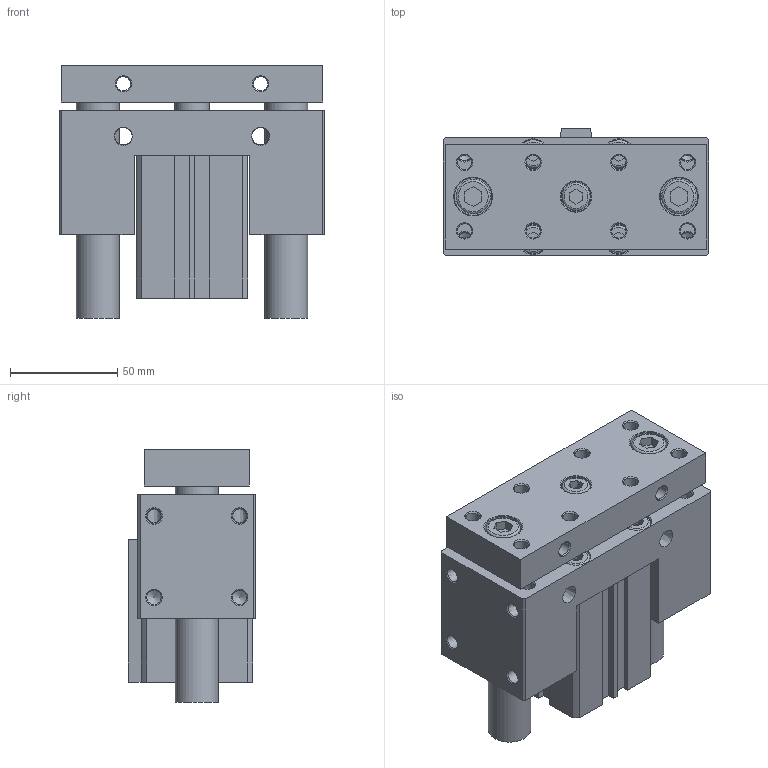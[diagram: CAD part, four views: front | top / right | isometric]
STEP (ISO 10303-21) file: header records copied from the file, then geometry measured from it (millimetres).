
FILE_DESCRIPTION((''),'2;1');
FILE_NAME('I:\3D電子目錄\氣缸\JCB\JCB\JCB40\JCB40x40.stp','2007-08-23T20:08:35',('Administrator'),(''),'Autodesk Inventor 11','Autodesk Inventor 11','');
FILE_SCHEMA(('AUTOMOTIVE_DESIGN { 1 0 10303 214 1 1 1 1 }'));
Length unit declared in the file: millimetre
Products named in the file (1): JCB40
Bounding box: 124 x 59.5 x 118 mm (x, y, z)
Volume: 533322.5 mm3; surface area: 118791 mm2
Topology: 3 solids, 3 shells, 303 faces, 731 edges, 473 vertices
Faces by surface type: plane 163, cylinder 52, cone 47, bspline 33, torus 8
Full cylindrical faces by diameter (mm): 2.2 x2, 6.647 x4, 6.8 x4, 10 x8, 13 x5, 14 x5, 16 x3, 17 x1, 17.5 x2, 20 x2, 23 x2, 28 x1, 29 x1, 42 x4, 44.5 x2
Entity records: 8528 total; most frequent: CARTESIAN_POINT 2090, DIRECTION 1302, ORIENTED_EDGE 1114, EDGE_CURVE 557, EDGE_LOOP 522, AXIS2_PLACEMENT_3D 480, VERTEX_POINT 435, VECTOR 342
